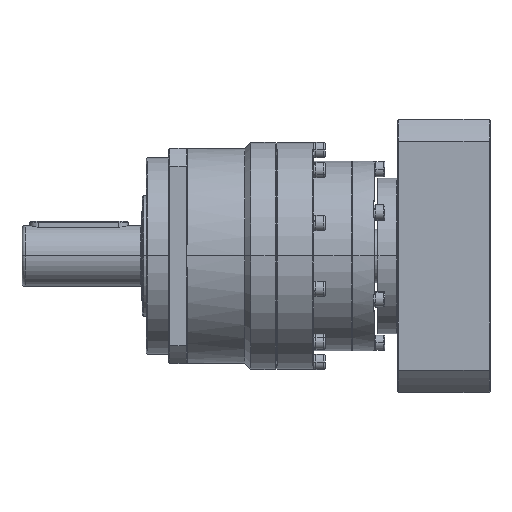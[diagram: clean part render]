
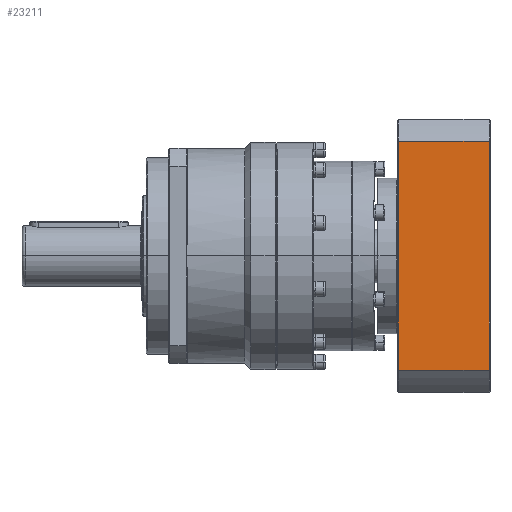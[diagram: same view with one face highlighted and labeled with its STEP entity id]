
A CAD part, top view. The second image highlights one B-rep face of the part: STEP entity #23211.
In plain terms, the highlighted planar face has unit normal (0, 0, 1).
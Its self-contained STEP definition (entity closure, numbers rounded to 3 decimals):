
#1676 = ORIENTED_EDGE ( 'NONE', *, *, #14919, .T. ) ;
#1677 = ORIENTED_EDGE ( 'NONE', *, *, #20760, .T. ) ;
#1685 = ORIENTED_EDGE ( 'NONE', *, *, #20853, .T. ) ;
#1686 = ORIENTED_EDGE ( 'NONE', *, *, #20771, .T. ) ;
#2244 = PLANE ( 'NONE',  #15944 ) ;
#2435 = CARTESIAN_POINT ( 'NONE',  ( 346., -90., 90. ) ) ;
#2437 = DIRECTION ( 'NONE',  ( 0., 0., 1. ) ) ;
#2439 = DIRECTION ( 'NONE',  ( 0., -1., 0. ) ) ;
#2873 = CARTESIAN_POINT ( 'NONE',  ( 346., -75.54, 90. ) ) ;
#3147 = DIRECTION ( 'NONE',  ( 1., 0., 0. ) ) ;
#3341 = DIRECTION ( 'NONE',  ( 0., -1., 0. ) ) ;
#3342 = CARTESIAN_POINT ( 'NONE',  ( 346.5, -74.76, 90. ) ) ;
#3787 = DIRECTION ( 'NONE',  ( -1., 0., 0. ) ) ;
#3790 = CARTESIAN_POINT ( 'NONE',  ( 346., 75.54, 90. ) ) ;
#3881 = VECTOR ( 'NONE', #3787, 1000. ) ;
#3882 = LINE ( 'NONE', #3790, #3881 ) ;
#3933 = LINE ( 'NONE', #3342, #3938 ) ;
#3938 = VECTOR ( 'NONE', #3341, 1000. ) ;
#5498 = LINE ( 'NONE', #9502, #5813 ) ;
#5813 = VECTOR ( 'NONE', #9498, 1000. ) ;
#6940 = VERTEX_POINT ( 'NONE', #21677 ) ;
#6991 = VERTEX_POINT ( 'NONE', #21772 ) ;
#7001 = VERTEX_POINT ( 'NONE', #21627 ) ;
#7018 = VERTEX_POINT ( 'NONE', #21867 ) ;
#9498 = DIRECTION ( 'NONE',  ( 0., 1., 0. ) ) ;
#9502 = CARTESIAN_POINT ( 'NONE',  ( 406.5, 74.76, 90. ) ) ;
#9995 = VECTOR ( 'NONE', #3147, 1000. ) ;
#10094 = LINE ( 'NONE', #2873, #9995 ) ;
#11604 = EDGE_LOOP ( 'NONE', ( #1677, #1676, #1686, #1685 ) ) ;
#13686 = FACE_OUTER_BOUND ( 'NONE', #11604, .T. ) ;
#14919 = EDGE_CURVE ( 'NONE', #6940, #7001, #5498, .T. ) ;
#15944 = AXIS2_PLACEMENT_3D ( 'NONE', #2435, #2437, #2439 ) ;
#20760 = EDGE_CURVE ( 'NONE', #6991, #6940, #10094, .T. ) ;
#20771 = EDGE_CURVE ( 'NONE', #7001, #7018, #3882, .T. ) ;
#20853 = EDGE_CURVE ( 'NONE', #7018, #6991, #3933, .T. ) ;
#21627 = CARTESIAN_POINT ( 'NONE',  ( 406.5, 75.54, 90. ) ) ;
#21677 = CARTESIAN_POINT ( 'NONE',  ( 406.5, -75.54, 90. ) ) ;
#21772 = CARTESIAN_POINT ( 'NONE',  ( 346.5, -75.54, 90. ) ) ;
#21867 = CARTESIAN_POINT ( 'NONE',  ( 346.5, 75.54, 90. ) ) ;
#23211 = ADVANCED_FACE ( 'NONE', ( #13686 ), #2244, .T. ) ;
